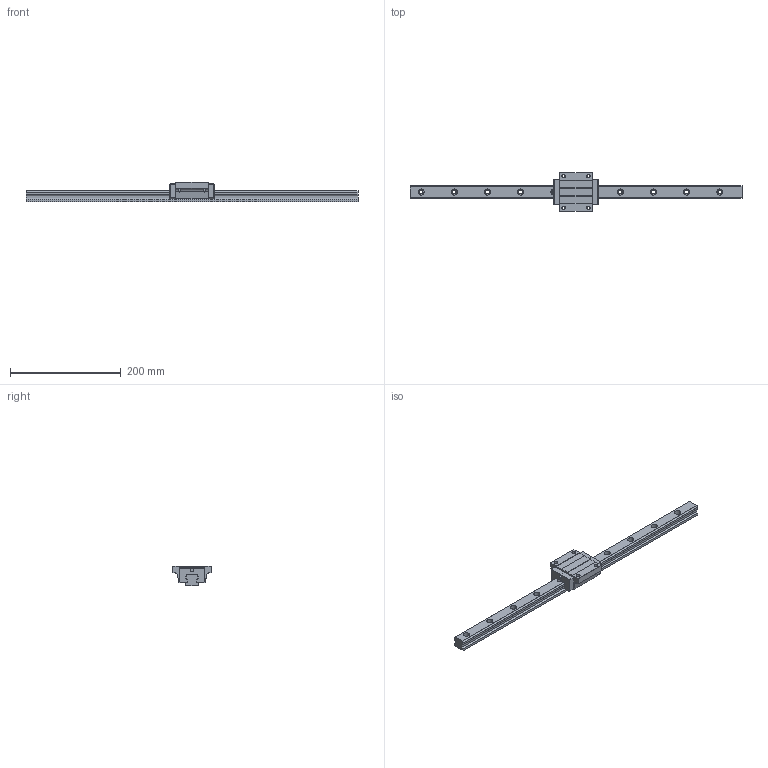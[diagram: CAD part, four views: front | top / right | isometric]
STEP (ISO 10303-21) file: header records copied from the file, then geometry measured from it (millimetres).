
FILE_DESCRIPTION (( 'STEP AP203' ), '1' );
FILE_NAME ('TRH25FN-XNC.STEP', '2024-08-16T05:47:45', ( '' ), ( '' ), 'SwSTEP 2.0', 'SolidWorks 2021', '' );
FILE_SCHEMA (( 'CONFIG_CONTROL_DESIGN' ));
Length unit declared in the file: millimetre
Products named in the file (1): TRH25FN-XNC
Bounding box: 600 x 70 x 36 mm (x, y, z)
Volume: 334644.9 mm3; surface area: 77993.6 mm2
Topology: 1 solids, 1 shells, 199 faces, 554 edges, 362 vertices
Faces by surface type: cylinder 108, plane 87, sphere 4
Entity records: 6859 total; most frequent: CARTESIAN_POINT 1484, DIRECTION 1136, ORIENTED_EDGE 1100, EDGE_CURVE 550, AXIS2_PLACEMENT_3D 406, VERTEX_POINT 362, VECTOR 324, LINE 324
